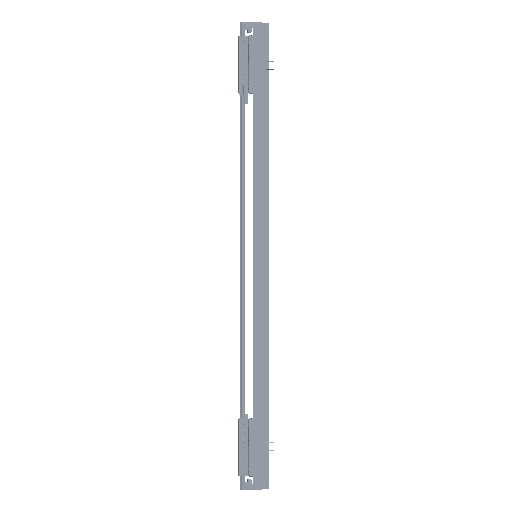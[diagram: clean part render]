
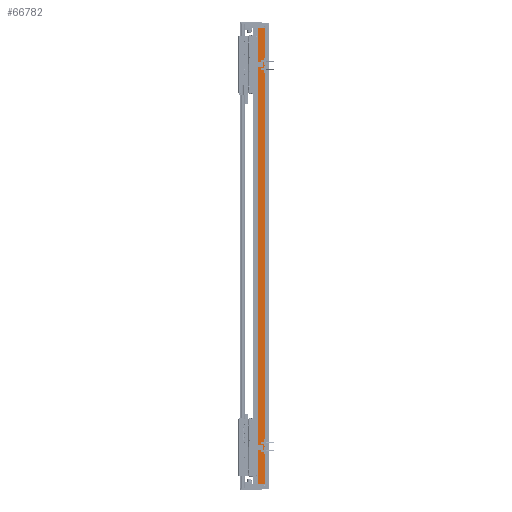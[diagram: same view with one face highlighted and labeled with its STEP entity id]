
A CAD part, left-side view. The second image highlights one B-rep face of the part: STEP entity #66782.
In plain terms, the highlighted planar face has unit normal (-1, 0, 0).
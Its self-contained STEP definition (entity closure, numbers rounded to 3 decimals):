
#1286 = CARTESIAN_POINT ( 'NONE',  ( -97.5, 36.95, -750. ) ) ;
#2309 = CARTESIAN_POINT ( 'NONE',  ( -97.5, 36.95, 750. ) ) ;
#12503 = VERTEX_POINT ( 'NONE', #28374 ) ;
#14776 = DIRECTION ( 'NONE',  ( 0., 0., -1. ) ) ;
#20611 = DIRECTION ( 'NONE',  ( 1., 0., 0. ) ) ;
#21425 = CARTESIAN_POINT ( 'NONE',  ( -97.5, 36.95, 750. ) ) ;
#28374 = CARTESIAN_POINT ( 'NONE',  ( -97.5, 36.95, 750. ) ) ;
#31695 = ORIENTED_EDGE ( 'NONE', *, *, #37101, .F. ) ;
#32933 = CARTESIAN_POINT ( 'NONE',  ( -97.5, 14.45, -750. ) ) ;
#37101 = EDGE_CURVE ( 'NONE', #12503, #98876, #83827, .T. ) ;
#37424 = CARTESIAN_POINT ( 'NONE',  ( -97.5, 36.95, -750. ) ) ;
#39609 = ORIENTED_EDGE ( 'NONE', *, *, #146455, .T. ) ;
#46365 = FACE_OUTER_BOUND ( 'NONE', #126940, .T. ) ;
#46893 = CARTESIAN_POINT ( 'NONE',  ( -97.5, 14.45, 750. ) ) ;
#52375 = LINE ( 'NONE', #37424, #157019 ) ;
#56073 = VECTOR ( 'NONE', #84644, 1000. ) ;
#66782 = ADVANCED_FACE ( 'NONE', ( #46365 ), #98766, .F. ) ;
#83805 = CARTESIAN_POINT ( 'NONE',  ( -97.5, 14.45, 750. ) ) ;
#83827 = LINE ( 'NONE', #109606, #56073 ) ;
#84644 = DIRECTION ( 'NONE',  ( 0., -1., 0. ) ) ;
#98766 = PLANE ( 'NONE',  #120997 ) ;
#98876 = VERTEX_POINT ( 'NONE', #83805 ) ;
#109606 = CARTESIAN_POINT ( 'NONE',  ( -97.5, 36.95, 750. ) ) ;
#110435 = DIRECTION ( 'NONE',  ( 0., 1., 0. ) ) ;
#111971 = VERTEX_POINT ( 'NONE', #1286 ) ;
#114044 = VECTOR ( 'NONE', #14776, 1000. ) ;
#120997 = AXIS2_PLACEMENT_3D ( 'NONE', #21425, #20611, #110435 ) ;
#122306 = EDGE_CURVE ( 'NONE', #98876, #163898, #125058, .T. ) ;
#125058 = LINE ( 'NONE', #46893, #127186 ) ;
#126940 = EDGE_LOOP ( 'NONE', ( #161449, #155257, #31695, #39609 ) ) ;
#127186 = VECTOR ( 'NONE', #135885, 1000. ) ;
#127267 = DIRECTION ( 'NONE',  ( 0., -1., 0. ) ) ;
#135885 = DIRECTION ( 'NONE',  ( 0., 0., -1. ) ) ;
#146455 = EDGE_CURVE ( 'NONE', #12503, #111971, #153673, .T. ) ;
#153673 = LINE ( 'NONE', #2309, #114044 ) ;
#155257 = ORIENTED_EDGE ( 'NONE', *, *, #122306, .F. ) ;
#157019 = VECTOR ( 'NONE', #127267, 1000. ) ;
#161449 = ORIENTED_EDGE ( 'NONE', *, *, #164422, .T. ) ;
#163898 = VERTEX_POINT ( 'NONE', #32933 ) ;
#164422 = EDGE_CURVE ( 'NONE', #111971, #163898, #52375, .T. ) ;
